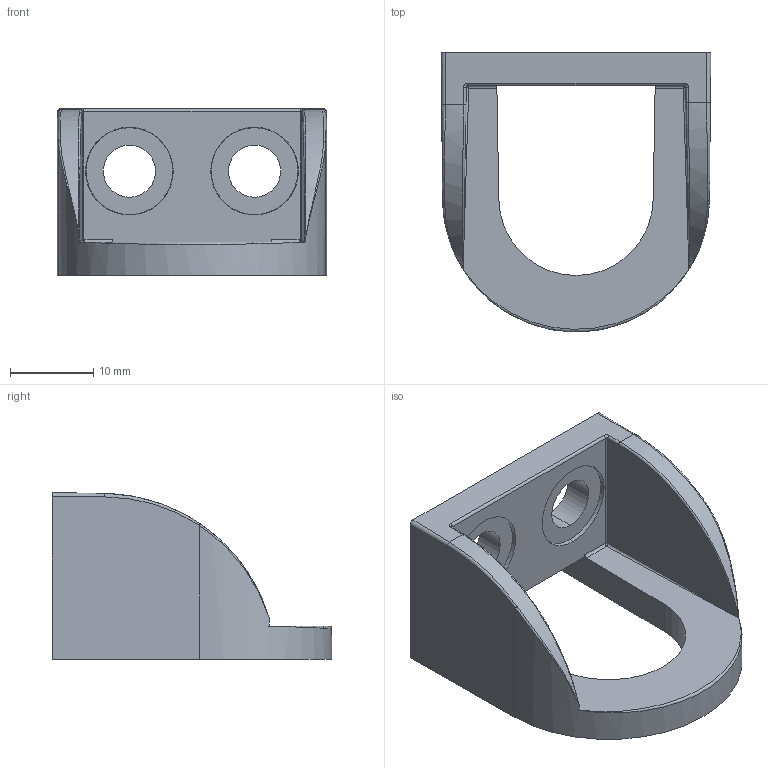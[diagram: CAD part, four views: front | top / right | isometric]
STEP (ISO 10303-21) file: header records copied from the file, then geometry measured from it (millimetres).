
FILE_DESCRIPTION (( 'STEP AP203' ), '1' );
FILE_NAME ('013.100.009.STEP', '2020-10-27T15:19:05', ( '' ), ( '' ), 'SwSTEP 2.0', 'SolidWorks 2018', '' );
FILE_SCHEMA (( 'CONFIG_CONTROL_DESIGN' ));
Length unit declared in the file: millimetre
Products named in the file (1): 013.100.009
Bounding box: 32.31 x 33.5 x 20 mm (x, y, z)
Volume: 5166.4 mm3; surface area: 3986.4 mm2
Topology: 1 solids, 1 shells, 48 faces, 123 edges, 67 vertices
Faces by surface type: bspline 17, plane 14, cylinder 13, cone 4
Entity records: 2397 total; most frequent: CARTESIAN_POINT 1371, ORIENTED_EDGE 226, DIRECTION 154, EDGE_CURVE 113, VERTEX_POINT 67, AXIS2_PLACEMENT_3D 55, EDGE_LOOP 54, FACE_OUTER_BOUND 48
